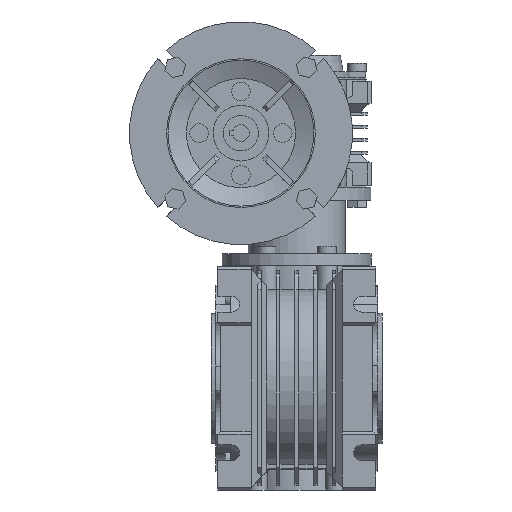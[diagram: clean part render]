
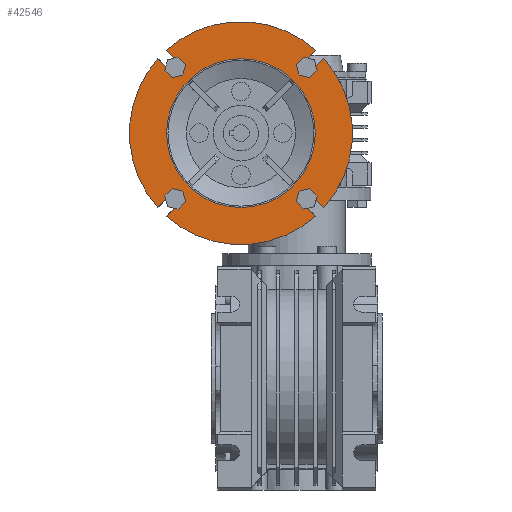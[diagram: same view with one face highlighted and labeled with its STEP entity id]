
A CAD part, front view. The second image highlights one B-rep face of the part: STEP entity #42546.
In plain terms, the highlighted planar face has unit normal (0, -1, 0) as drawn and (1, 0, 0) by its records, which use the part's own axes.
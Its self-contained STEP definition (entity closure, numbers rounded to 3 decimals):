
#1314=PLANE('',#45353);
#4670=LINE('',#63276,#7833);
#4671=LINE('',#63277,#7834);
#4672=LINE('',#63281,#7835);
#4673=LINE('',#63282,#7836);
#4674=LINE('',#63286,#7837);
#4675=LINE('',#63287,#7838);
#4676=LINE('',#63291,#7839);
#4677=LINE('',#63292,#7840);
#7833=VECTOR('',#53615,1000.);
#7834=VECTOR('',#53616,1000.);
#7835=VECTOR('',#53619,1000.);
#7836=VECTOR('',#53620,1000.);
#7837=VECTOR('',#53623,1000.);
#7838=VECTOR('',#53624,1000.);
#7839=VECTOR('',#53627,1000.);
#7840=VECTOR('',#53628,1000.);
#16176=ORIENTED_EDGE('',*,*,#20869,.F.);
#16177=ORIENTED_EDGE('',*,*,#20870,.F.);
#16178=ORIENTED_EDGE('',*,*,#20871,.T.);
#16179=ORIENTED_EDGE('',*,*,#20774,.T.);
#16180=ORIENTED_EDGE('',*,*,#20872,.T.);
#16181=ORIENTED_EDGE('',*,*,#20873,.F.);
#16182=ORIENTED_EDGE('',*,*,#20874,.T.);
#16183=ORIENTED_EDGE('',*,*,#20784,.T.);
#16184=ORIENTED_EDGE('',*,*,#20875,.T.);
#16185=ORIENTED_EDGE('',*,*,#20876,.F.);
#16186=ORIENTED_EDGE('',*,*,#20877,.T.);
#16187=ORIENTED_EDGE('',*,*,#20780,.T.);
#16188=ORIENTED_EDGE('',*,*,#20878,.T.);
#16189=ORIENTED_EDGE('',*,*,#20879,.F.);
#16190=ORIENTED_EDGE('',*,*,#20880,.T.);
#16191=ORIENTED_EDGE('',*,*,#20867,.T.);
#16192=ORIENTED_EDGE('',*,*,#20881,.T.);
#20774=EDGE_CURVE('',#23815,#23816,#24925,.T.);
#20780=EDGE_CURVE('',#23822,#23821,#24928,.T.);
#20784=EDGE_CURVE('',#23826,#23825,#24930,.T.);
#20867=EDGE_CURVE('',#23899,#23898,#24943,.T.);
#20869=EDGE_CURVE('',#23900,#23900,#24944,.T.);
#20870=EDGE_CURVE('',#23901,#23902,#24945,.T.);
#20871=EDGE_CURVE('',#23901,#23815,#4670,.T.);
#20872=EDGE_CURVE('',#23816,#23903,#4671,.T.);
#20873=EDGE_CURVE('',#23904,#23903,#24946,.T.);
#20874=EDGE_CURVE('',#23904,#23826,#4672,.T.);
#20875=EDGE_CURVE('',#23825,#23905,#4673,.T.);
#20876=EDGE_CURVE('',#23906,#23905,#24947,.T.);
#20877=EDGE_CURVE('',#23906,#23822,#4674,.T.);
#20878=EDGE_CURVE('',#23821,#23907,#4675,.T.);
#20879=EDGE_CURVE('',#23908,#23907,#24948,.T.);
#20880=EDGE_CURVE('',#23908,#23899,#4676,.T.);
#20881=EDGE_CURVE('',#23898,#23902,#4677,.T.);
#23815=VERTEX_POINT('',#63046);
#23816=VERTEX_POINT('',#63047);
#23821=VERTEX_POINT('',#63058);
#23822=VERTEX_POINT('',#63060);
#23825=VERTEX_POINT('',#63067);
#23826=VERTEX_POINT('',#63069);
#23898=VERTEX_POINT('',#63266);
#23899=VERTEX_POINT('',#63268);
#23900=VERTEX_POINT('',#63272);
#23901=VERTEX_POINT('',#63274);
#23902=VERTEX_POINT('',#63275);
#23903=VERTEX_POINT('',#63278);
#23904=VERTEX_POINT('',#63280);
#23905=VERTEX_POINT('',#63283);
#23906=VERTEX_POINT('',#63285);
#23907=VERTEX_POINT('',#63288);
#23908=VERTEX_POINT('',#63290);
#24925=CIRCLE('',#45319,60.);
#24928=CIRCLE('',#45323,60.);
#24930=CIRCLE('',#45326,60.);
#24943=CIRCLE('',#45352,60.);
#24944=CIRCLE('',#45354,40.);
#24945=CIRCLE('',#45355,3.25);
#24946=CIRCLE('',#45356,3.25);
#24947=CIRCLE('',#45357,3.25);
#24948=CIRCLE('',#45358,3.25);
#26789=EDGE_LOOP('',(#16176));
#26790=EDGE_LOOP('',(#16177,#16178,#16179,#16180,#16181,#16182,#16183,#16184,
#16185,#16186,#16187,#16188,#16189,#16190,#16191,#16192));
#28773=FACE_BOUND('',#26789,.T.);
#28774=FACE_BOUND('',#26790,.T.);
#42546=ADVANCED_FACE('',(#28773,#28774),#1314,.F.);
#45319=AXIS2_PLACEMENT_3D('',#63045,#53483,#53484);
#45323=AXIS2_PLACEMENT_3D('',#63059,#53494,#53495);
#45326=AXIS2_PLACEMENT_3D('',#63068,#53502,#53503);
#45352=AXIS2_PLACEMENT_3D('',#63267,#53606,#53607);
#45353=AXIS2_PLACEMENT_3D('',#63270,#53609,#53610);
#45354=AXIS2_PLACEMENT_3D('',#63271,#53611,#53612);
#45355=AXIS2_PLACEMENT_3D('',#63273,#53613,#53614);
#45356=AXIS2_PLACEMENT_3D('',#63279,#53617,#53618);
#45357=AXIS2_PLACEMENT_3D('',#63284,#53621,#53622);
#45358=AXIS2_PLACEMENT_3D('',#63289,#53625,#53626);
#53483=DIRECTION('',(1.,0.,0.));
#53484=DIRECTION('',(0.,0.,-1.));
#53494=DIRECTION('',(1.,0.,0.));
#53495=DIRECTION('',(0.,0.,-1.));
#53502=DIRECTION('',(1.,0.,0.));
#53503=DIRECTION('',(0.,0.,-1.));
#53606=DIRECTION('',(1.,0.,0.));
#53607=DIRECTION('',(0.,0.,-1.));
#53609=DIRECTION('',(-1.,0.,0.));
#53610=DIRECTION('',(0.,0.,1.));
#53611=DIRECTION('',(1.,0.,0.));
#53612=DIRECTION('',(0.,0.,-1.));
#53613=DIRECTION('',(1.,0.,0.));
#53614=DIRECTION('',(0.,0.,-1.));
#53615=DIRECTION('',(0.,0.707,0.707));
#53616=DIRECTION('',(0.,0.707,-0.707));
#53617=DIRECTION('',(1.,0.,0.));
#53618=DIRECTION('',(0.,0.,-1.));
#53619=DIRECTION('',(0.,-0.707,0.707));
#53620=DIRECTION('',(0.,0.707,0.707));
#53621=DIRECTION('',(1.,0.,0.));
#53622=DIRECTION('',(0.,0.,-1.));
#53623=DIRECTION('',(0.,-0.707,-0.707));
#53624=DIRECTION('',(0.,-0.707,0.707));
#53625=DIRECTION('',(1.,0.,0.));
#53626=DIRECTION('',(0.,0.,-1.));
#53627=DIRECTION('',(0.,0.707,-0.707));
#53628=DIRECTION('',(0.,-0.707,-0.707));
#63045=CARTESIAN_POINT('',(20.,0.,0.));
#63046=CARTESIAN_POINT('',(20.,40.066,44.662));
#63047=CARTESIAN_POINT('',(20.,-40.066,44.662));
#63058=CARTESIAN_POINT('',(20.,40.066,-44.662));
#63059=CARTESIAN_POINT('',(20.,0.,0.));
#63060=CARTESIAN_POINT('',(20.,-40.066,-44.662));
#63067=CARTESIAN_POINT('',(20.,-44.662,-40.066));
#63068=CARTESIAN_POINT('',(20.,0.,0.));
#63069=CARTESIAN_POINT('',(20.,-44.662,40.066));
#63266=CARTESIAN_POINT('',(20.,44.662,40.066));
#63267=CARTESIAN_POINT('',(20.,0.,0.));
#63268=CARTESIAN_POINT('',(20.,44.662,-40.066));
#63270=CARTESIAN_POINT('',(20.,60.,0.));
#63271=CARTESIAN_POINT('',(20.,0.,0.));
#63272=CARTESIAN_POINT('',(20.,0.,-40.));
#63273=CARTESIAN_POINT('',(20.,35.355,35.355));
#63274=CARTESIAN_POINT('',(20.,33.057,37.653));
#63275=CARTESIAN_POINT('',(20.,37.653,33.057));
#63276=CARTESIAN_POINT('',(20.,33.057,37.653));
#63277=CARTESIAN_POINT('',(20.,-40.066,44.662));
#63278=CARTESIAN_POINT('',(20.,-33.057,37.653));
#63279=CARTESIAN_POINT('',(20.,-35.355,35.355));
#63280=CARTESIAN_POINT('',(20.,-37.653,33.057));
#63281=CARTESIAN_POINT('',(20.,-37.653,33.057));
#63282=CARTESIAN_POINT('',(20.,-44.662,-40.066));
#63283=CARTESIAN_POINT('',(20.,-37.653,-33.057));
#63284=CARTESIAN_POINT('',(20.,-35.355,-35.355));
#63285=CARTESIAN_POINT('',(20.,-33.057,-37.653));
#63286=CARTESIAN_POINT('',(20.,-33.057,-37.653));
#63287=CARTESIAN_POINT('',(20.,40.066,-44.662));
#63288=CARTESIAN_POINT('',(20.,33.057,-37.653));
#63289=CARTESIAN_POINT('',(20.,35.355,-35.355));
#63290=CARTESIAN_POINT('',(20.,37.653,-33.057));
#63291=CARTESIAN_POINT('',(20.,37.653,-33.057));
#63292=CARTESIAN_POINT('',(20.,44.662,40.066));
